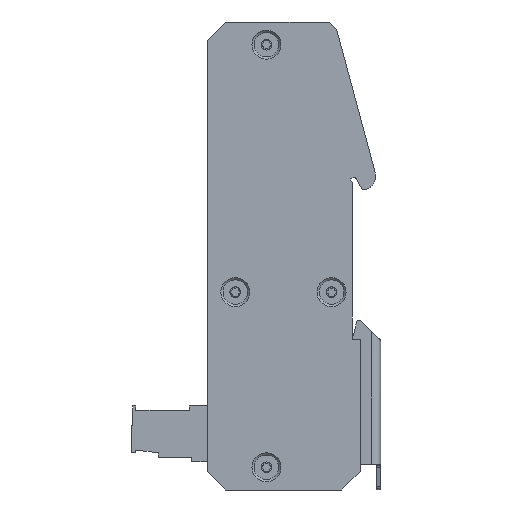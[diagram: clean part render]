
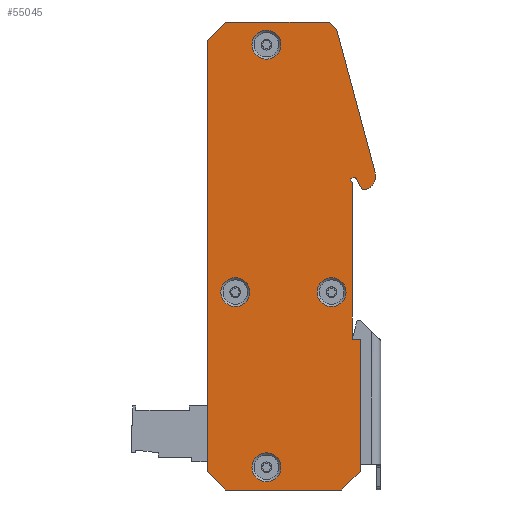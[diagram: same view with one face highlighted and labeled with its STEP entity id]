
A CAD part, left-side view. The second image highlights one B-rep face of the part: STEP entity #55045.
In plain terms, the highlighted planar face has unit normal (-1, 0, 0).
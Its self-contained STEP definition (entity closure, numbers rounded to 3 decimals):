
#54567=CARTESIAN_POINT('',(-21.,-16.4,-48.4));
#54568=VERTEX_POINT('',#54567);
#54569=CARTESIAN_POINT('',(-21.,-16.4,-18.65));
#54570=VERTEX_POINT('',#54569);
#54571=CARTESIAN_POINT('',(-21.,-16.4,-48.4));
#54572=DIRECTION('',(0.,0.,1.));
#54573=VECTOR('',#54572,29.75);
#54574=LINE('',#54571,#54573);
#54575=EDGE_CURVE('',#54568,#54570,#54574,.T.);
#54599=CARTESIAN_POINT('',(-21.,-12.3,-52.5));
#54600=VERTEX_POINT('',#54599);
#54601=CARTESIAN_POINT('',(-21.,-12.3,-52.5));
#54602=DIRECTION('',(-0.,-0.707,0.707));
#54603=VECTOR('',#54602,5.798);
#54604=LINE('',#54601,#54603);
#54605=EDGE_CURVE('',#54600,#54568,#54604,.T.);
#54624=CARTESIAN_POINT('',(-21.,13.8,-52.5));
#54625=VERTEX_POINT('',#54624);
#54626=CARTESIAN_POINT('',(-21.,13.8,-52.5));
#54627=DIRECTION('',(-0.,-1.,0.));
#54628=VECTOR('',#54627,26.1);
#54629=LINE('',#54626,#54628);
#54630=EDGE_CURVE('',#54625,#54600,#54629,.T.);
#54649=CARTESIAN_POINT('',(-21.,17.9,-48.4));
#54650=VERTEX_POINT('',#54649);
#54651=CARTESIAN_POINT('',(-21.,17.9,-48.4));
#54652=DIRECTION('',(-0.,-0.707,-0.707));
#54653=VECTOR('',#54652,5.798);
#54654=LINE('',#54651,#54653);
#54655=EDGE_CURVE('',#54650,#54625,#54654,.T.);
#54674=CARTESIAN_POINT('',(-21.,17.9,48.4));
#54675=VERTEX_POINT('',#54674);
#54676=CARTESIAN_POINT('',(-21.,17.9,48.4));
#54677=DIRECTION('',(0.,0.,-1.));
#54678=VECTOR('',#54677,96.8);
#54679=LINE('',#54676,#54678);
#54680=EDGE_CURVE('',#54675,#54650,#54679,.T.);
#54699=CARTESIAN_POINT('',(-21.,13.8,52.5));
#54700=VERTEX_POINT('',#54699);
#54701=CARTESIAN_POINT('',(-21.,13.8,52.5));
#54702=DIRECTION('',(0.,0.707,-0.707));
#54703=VECTOR('',#54702,5.798);
#54704=LINE('',#54701,#54703);
#54705=EDGE_CURVE('',#54700,#54675,#54704,.T.);
#54724=CARTESIAN_POINT('',(-21.,-9.5,52.5));
#54725=VERTEX_POINT('',#54724);
#54726=CARTESIAN_POINT('',(-21.,-9.5,52.5));
#54727=DIRECTION('',(0.,1.,0.));
#54728=VECTOR('',#54727,23.3);
#54729=LINE('',#54726,#54728);
#54730=EDGE_CURVE('',#54725,#54700,#54729,.T.);
#54749=CARTESIAN_POINT('',(-21.,-11.141,50.859));
#54750=VERTEX_POINT('',#54749);
#54751=CARTESIAN_POINT('',(-21.,-11.141,50.859));
#54752=DIRECTION('',(0.,0.707,0.707));
#54753=VECTOR('',#54752,2.32);
#54754=LINE('',#54751,#54753);
#54755=EDGE_CURVE('',#54750,#54725,#54754,.T.);
#54774=CARTESIAN_POINT('',(-21.,-19.797,18.628));
#54775=VERTEX_POINT('',#54774);
#54776=CARTESIAN_POINT('',(-21.,-19.797,18.628));
#54777=DIRECTION('',(0.,0.259,0.966));
#54778=VECTOR('',#54777,33.373);
#54779=LINE('',#54776,#54778);
#54780=EDGE_CURVE('',#54775,#54750,#54779,.T.);
#54799=CARTESIAN_POINT('',(-21.,-16.9,14.85));
#54800=VERTEX_POINT('',#54799);
#54809=CARTESIAN_POINT('',(-21.,-16.9,17.85));
#54810=DIRECTION('',(-1.,0.,0.));
#54811=DIRECTION('',(0.,1.,0.));
#54812=AXIS2_PLACEMENT_3D('',#54809,#54810,#54811);
#54813=CIRCLE('',#54812,3.);
#54814=EDGE_CURVE('',#54800,#54775,#54813,.T.);
#54825=CARTESIAN_POINT('',(-21.,-15.503,17.409));
#54826=VERTEX_POINT('',#54825);
#54827=CARTESIAN_POINT('',(-21.,-16.863,14.85));
#54828=VERTEX_POINT('',#54827);
#54829=CARTESIAN_POINT('',(-21.,-15.503,17.409));
#54830=DIRECTION('',(-0.,-0.469,-0.883));
#54831=VECTOR('',#54830,2.897);
#54832=LINE('',#54829,#54831);
#54833=EDGE_CURVE('',#54826,#54828,#54832,.T.);
#54857=CARTESIAN_POINT('',(-21.,-14.826,17.615));
#54858=VERTEX_POINT('',#54857);
#54859=CARTESIAN_POINT('',(-21.,-15.061,17.174));
#54860=DIRECTION('',(1.,-0.,0.));
#54861=DIRECTION('',(0.,1.,0.));
#54862=AXIS2_PLACEMENT_3D('',#54859,#54860,#54861);
#54863=CIRCLE('',#54862,0.5);
#54864=EDGE_CURVE('',#54858,#54826,#54863,.T.);
#54883=CARTESIAN_POINT('',(-21.,-14.208,17.287));
#54884=VERTEX_POINT('',#54883);
#54885=CARTESIAN_POINT('',(-21.,-14.208,17.287));
#54886=DIRECTION('',(-0.,-0.883,0.469));
#54887=VECTOR('',#54886,0.7);
#54888=LINE('',#54885,#54887);
#54889=EDGE_CURVE('',#54884,#54858,#54888,.T.);
#54908=CARTESIAN_POINT('',(-21.,-14.6,16.55));
#54909=VERTEX_POINT('',#54908);
#54910=CARTESIAN_POINT('',(-21.,-14.6,16.55));
#54911=DIRECTION('',(0.,0.469,0.883));
#54912=VECTOR('',#54911,0.834);
#54913=LINE('',#54910,#54912);
#54914=EDGE_CURVE('',#54909,#54884,#54913,.T.);
#54933=CARTESIAN_POINT('',(-21.,-14.6,-18.65));
#54934=VERTEX_POINT('',#54933);
#54935=CARTESIAN_POINT('',(-21.,-14.6,-18.65));
#54936=DIRECTION('',(-0.,-0.,1.));
#54937=VECTOR('',#54936,35.2);
#54938=LINE('',#54935,#54937);
#54939=EDGE_CURVE('',#54934,#54909,#54938,.T.);
#54958=CARTESIAN_POINT('',(-21.,-16.4,-18.65));
#54959=DIRECTION('',(0.,1.,0.));
#54960=VECTOR('',#54959,1.8);
#54961=LINE('',#54958,#54960);
#54962=EDGE_CURVE('',#54570,#54934,#54961,.T.);
#54971=CARTESIAN_POINT('',(-21.,0.75,0.));
#54972=DIRECTION('',(-1.,0.,0.));
#54973=DIRECTION('',(-0.,-1.,0.));
#54974=AXIS2_PLACEMENT_3D('',#54971,#54972,#54973);
#54975=PLANE('',#54974);
#54976=CARTESIAN_POINT('',(-21.,4.6,50.65));
#54977=VERTEX_POINT('',#54976);
#54978=CARTESIAN_POINT('',(-21.,4.6,47.4));
#54979=DIRECTION('',(1.,-0.,0.));
#54980=DIRECTION('',(0.,0.,1.));
#54981=AXIS2_PLACEMENT_3D('',#54978,#54979,#54980);
#54982=CIRCLE('',#54981,3.25);
#54983=EDGE_CURVE('',#54977,#54977,#54982,.T.);
#54984=ORIENTED_EDGE('',*,*,#54983,.T.);
#54985=EDGE_LOOP('',(#54984));
#54986=FACE_BOUND('',#54985,.T.);
#54987=CARTESIAN_POINT('',(-21.,-10.,-4.85));
#54988=VERTEX_POINT('',#54987);
#54989=CARTESIAN_POINT('',(-21.,-10.,-8.1));
#54990=DIRECTION('',(1.,-0.,0.));
#54991=DIRECTION('',(0.,0.,1.));
#54992=AXIS2_PLACEMENT_3D('',#54989,#54990,#54991);
#54993=CIRCLE('',#54992,3.25);
#54994=EDGE_CURVE('',#54988,#54988,#54993,.T.);
#54995=ORIENTED_EDGE('',*,*,#54994,.T.);
#54996=EDGE_LOOP('',(#54995));
#54997=FACE_BOUND('',#54996,.T.);
#54998=CARTESIAN_POINT('',(-21.,4.6,-44.15));
#54999=VERTEX_POINT('',#54998);
#55000=CARTESIAN_POINT('',(-21.,4.6,-47.4));
#55001=DIRECTION('',(1.,-0.,0.));
#55002=DIRECTION('',(0.,0.,1.));
#55003=AXIS2_PLACEMENT_3D('',#55000,#55001,#55002);
#55004=CIRCLE('',#55003,3.25);
#55005=EDGE_CURVE('',#54999,#54999,#55004,.T.);
#55006=ORIENTED_EDGE('',*,*,#55005,.T.);
#55007=EDGE_LOOP('',(#55006));
#55008=FACE_BOUND('',#55007,.T.);
#55009=CARTESIAN_POINT('',(-21.,11.6,-4.85));
#55010=VERTEX_POINT('',#55009);
#55011=CARTESIAN_POINT('',(-21.,11.6,-8.1));
#55012=DIRECTION('',(1.,-0.,0.));
#55013=DIRECTION('',(0.,0.,1.));
#55014=AXIS2_PLACEMENT_3D('',#55011,#55012,#55013);
#55015=CIRCLE('',#55014,3.25);
#55016=EDGE_CURVE('',#55010,#55010,#55015,.T.);
#55017=ORIENTED_EDGE('',*,*,#55016,.T.);
#55018=EDGE_LOOP('',(#55017));
#55019=FACE_BOUND('',#55018,.T.);
#55020=ORIENTED_EDGE('',*,*,#54575,.T.);
#55021=ORIENTED_EDGE('',*,*,#54962,.T.);
#55022=ORIENTED_EDGE('',*,*,#54939,.T.);
#55023=ORIENTED_EDGE('',*,*,#54914,.T.);
#55024=ORIENTED_EDGE('',*,*,#54889,.T.);
#55025=ORIENTED_EDGE('',*,*,#54864,.T.);
#55026=ORIENTED_EDGE('',*,*,#54833,.T.);
#55027=CARTESIAN_POINT('',(-21.,-16.9,17.85));
#55028=DIRECTION('',(-1.,0.,0.));
#55029=DIRECTION('',(0.,1.,0.));
#55030=AXIS2_PLACEMENT_3D('',#55027,#55028,#55029);
#55031=CIRCLE('',#55030,3.);
#55032=EDGE_CURVE('',#54828,#54800,#55031,.T.);
#55033=ORIENTED_EDGE('',*,*,#55032,.T.);
#55034=ORIENTED_EDGE('',*,*,#54814,.T.);
#55035=ORIENTED_EDGE('',*,*,#54780,.T.);
#55036=ORIENTED_EDGE('',*,*,#54755,.T.);
#55037=ORIENTED_EDGE('',*,*,#54730,.T.);
#55038=ORIENTED_EDGE('',*,*,#54705,.T.);
#55039=ORIENTED_EDGE('',*,*,#54680,.T.);
#55040=ORIENTED_EDGE('',*,*,#54655,.T.);
#55041=ORIENTED_EDGE('',*,*,#54630,.T.);
#55042=ORIENTED_EDGE('',*,*,#54605,.T.);
#55043=EDGE_LOOP('',(#55020,#55021,#55022,#55023,#55024,#55025,#55026,#55033,#55034,#55035,#55036,#55037,#55038,#55039,#55040,#55041,#55042));
#55044=FACE_BOUND('',#55043,.T.);
#55045=ADVANCED_FACE('',(#54986,#54997,#55008,#55019,#55044),#54975,.T.);
